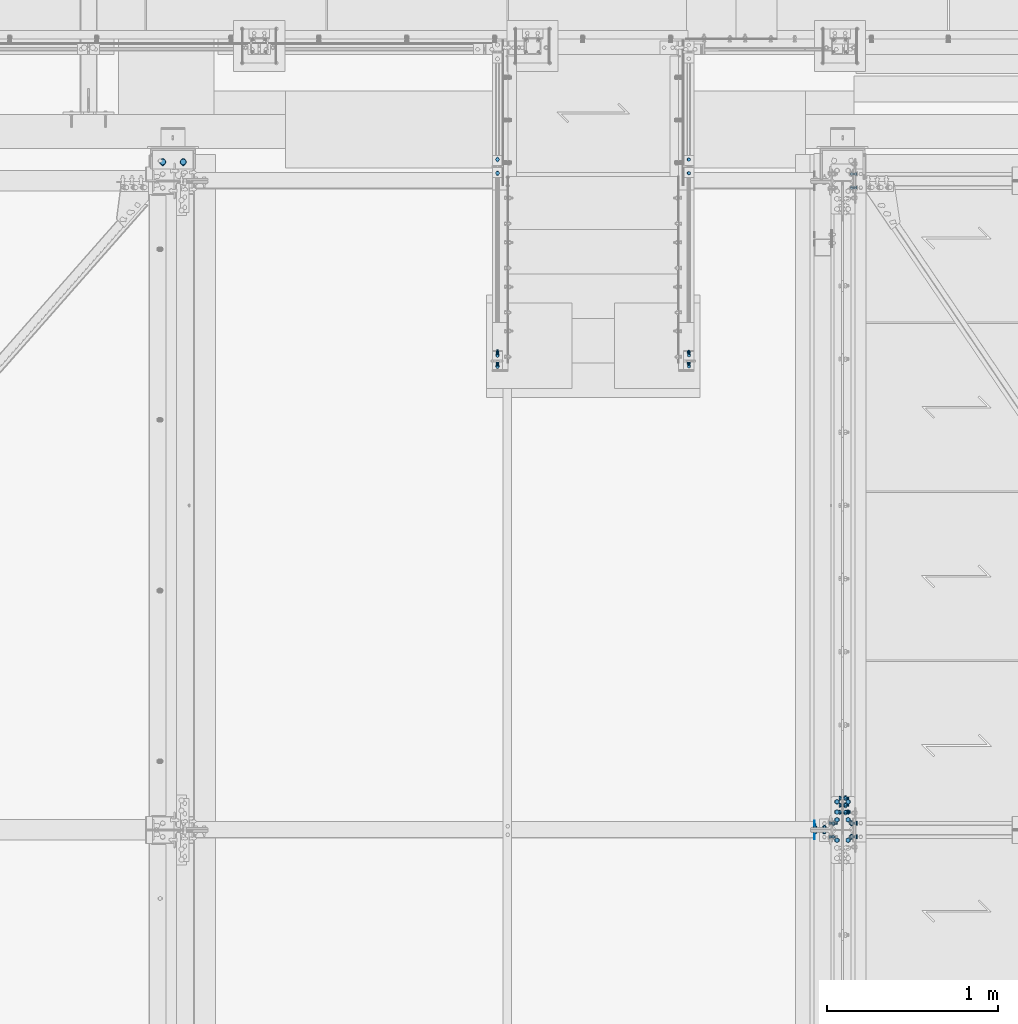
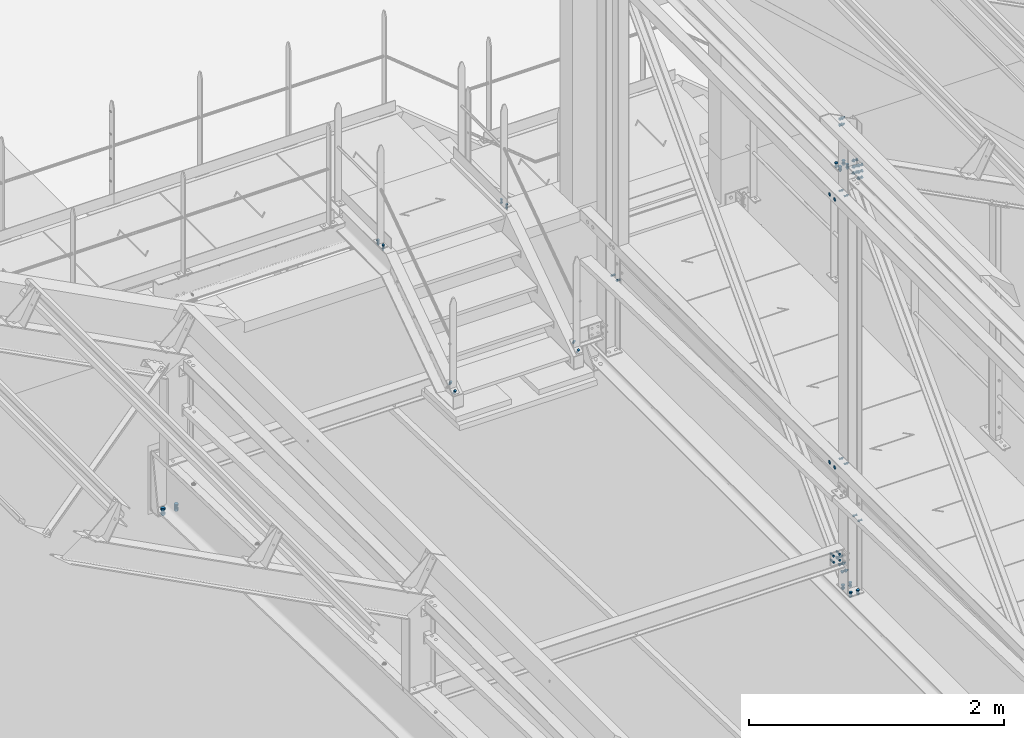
# One storey, part 173 of 362: 17 mechanical fasteners.
"""IFC2X3 building model written with IfcOpenShell, lengths in millimetres."""

from ifc_helpers import new_model, si_unit, frame, frame_2d, origin_with_axes, origin_2d_with_axis, place, context, subcontext, project, spatial, polyline, circle_curve, parameter, trimmed, segment, composite_curve, circle, outline, extrude, source, transform, mapped, material, type_object, element, save


model = new_model("IFC2X3")

# Units and contexts
model_context = context("Model", 3, precision=1e-05, world=origin_with_axes())
body_context = subcontext(model_context, "Body", "Model", "MODEL_VIEW")
ifc_project = project(units=[si_unit("LENGTHUNIT", "METRE", prefix="MILLI"), si_unit("AREAUNIT", "SQUARE_METRE"), si_unit("VOLUMEUNIT", "CUBIC_METRE"), si_unit("MASSUNIT", "GRAM", prefix="KILO"), si_unit("TIMEUNIT", "SECOND"), si_unit("PLANEANGLEUNIT", "RADIAN"), si_unit("SOLIDANGLEUNIT", "STERADIAN"), si_unit("THERMODYNAMICTEMPERATUREUNIT", "DEGREE_CELSIUS"), si_unit("LUMINOUSINTENSITYUNIT", "LUMEN")], contexts=[model_context])

# Site, building, storey
site_placement = place(None, origin_with_axes())
site = spatial("IfcSite", under=ifc_project, at=site_placement, Name="Undefined", CompositionType="ELEMENT")
building_placement = place(site_placement, origin_with_axes())
building = spatial("IfcBuilding", under=site, at=building_placement, Name="Undefined", CompositionType="ELEMENT")
storey_placement = place(building_placement, origin_with_axes())
storey = spatial("IfcBuildingStorey", under=building, at=storey_placement, Name="Undefined", CompositionType="ELEMENT", Elevation=0.0)

# Mechanical fasteners
ifc_material_1 = material(Name="8.8-SB-GALVA")
mechanical_fastener_type = type_object("IfcMechanicalFastenerType", Name="Bolt assembly")
shared_shape_1 = source(origin_with_axes(), body_context, "Body", "SweptSolid", [
    extrude(circle(Radius=7.0, at=origin_2d_with_axis()), frame((0.0, -0.100011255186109, 0.0), z_axis=(0.0, 1.0, 0.0), x_axis=(1.0, 0.0, 0.0)), (0.0, 0.0, 1.0), 12.9),
    extrude(circle(Radius=7.0, at=origin_2d_with_axis()), frame((0.0, -9.9, 0.0), z_axis=(0.0, 1.0, 0.0), x_axis=(1.0, 0.0, 0.0)), (0.0, 0.0, 1.0), 10.0),
    extrude(outline(polyline([(10.39230484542, 0.0), (5.19615242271, 9.00000000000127), (-5.19615242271, 9.00000000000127), (-10.39230484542, 0.0), (-5.19615242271, -9.00000000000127), (5.19615242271, -9.00000000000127), (10.39230484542, 0.0)])), frame((0.0, -17.92, 0.0), z_axis=(0.0, 1.0, 0.0), x_axis=(1.0, 0.0, 0.0)), (0.0, 0.0, 1.0), 7.92),
    extrude(circle(Radius=6.0, at=origin_2d_with_axis()), frame((0.0, -10.0000010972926, 0.0), z_axis=(0.0, 1.0, 0.0), x_axis=(1.0, 0.0, 0.0)), (0.0, 0.0, 1.0), 40.0),
    extrude(outline(polyline([(11.5008173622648, 0.0), (5.7504086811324, 9.96000000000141), (-5.7504086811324, 9.96000000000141), (-11.5008173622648, 0.0), (-5.7504086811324, -9.96000000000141), (5.7504086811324, -9.96000000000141), (11.5008173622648, 0.0)])), frame((0.0, 12.8008451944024, 0.0), z_axis=(0.0, 1.0, 0.0), x_axis=(1.0, 0.0, 0.0)), (0.0, 0.0, 1.0), 7.92),
])
mechanical_fastener_1_placement = place(storey_placement, frame((22569.9936634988, 15245.0038033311, 8910.0), z_axis=(-1.0, 0.0, 0.0), x_axis=(0.0, 1.0, 0.0)))
element("IfcMechanicalFastener", 1, at=mechanical_fastener_1_placement, inside=storey, type_object=mechanical_fastener_type, material=ifc_material_1, Name="Bolt assembly", NominalDiameter=12.0, NominalLength=40.0, context=body_context, shape_type="MappedRepresentation", body=[
    mapped(shared_shape_1, transform((0.0, 0.0, 0.0))),
    mapped(shared_shape_1, transform((80.0, 0.0, 0.0))),
])
shared_shape_2 = source(origin_with_axes(), body_context, "Body", "SweptSolid", [
    extrude(circle(Radius=7.0, at=origin_2d_with_axis()), frame((0.0, -0.0998569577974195, 0.0), z_axis=(0.0, 1.0, 0.0), x_axis=(1.0, 0.0, 0.0)), (0.0, 0.0, 1.0), 12.9),
    extrude(outline(composite_curve([segment(polyline([(-7.0, 7.0), (7.0, 7.0)]), True, "CONTINUOUS"), segment(trimmed(circle_curve(frame_2d((7.0, 0.0), x_axis=(0.0, 1.0)), 7.0), [parameter(0.0)], [parameter(3.14159265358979)], False, "PARAMETER"), True, "CONTINUOUS"), segment(polyline([(7.0, -7.0), (-7.0, -7.0)]), True, "CONTINUOUS"), segment(trimmed(circle_curve(frame_2d((-7.0, 0.0), x_axis=(0.0, -1.0)), 7.0), [parameter(0.0)], [parameter(3.14159265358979)], False, "PARAMETER"), True, "DISCONTINUOUS")], self_intersect=False)), frame((0.0, -9.9, 0.0), z_axis=(0.0, 1.0, 0.0), x_axis=(1.0, 0.0, 0.0)), (0.0, 0.0, 1.0), 10.0),
    extrude(outline(polyline([(10.39230484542, 0.0), (5.19615242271, 9.00000000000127), (-5.19615242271, 9.00000000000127), (-10.39230484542, 0.0), (-5.19615242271, -9.00000000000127), (5.19615242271, -9.00000000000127), (10.39230484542, 0.0)])), frame((0.0, -21.88, 0.0), z_axis=(0.0, 1.0, 0.0), x_axis=(1.0, 0.0, 0.0)), (0.0, 0.0, 1.0), 7.92),
    extrude(circle(Radius=6.0, at=origin_2d_with_axis()), frame((0.0, -13.96, 0.0), z_axis=(0.0, 1.0, 0.0), x_axis=(1.0, 0.0, 0.0)), (0.0, 0.0, 1.0), 50.0),
    extrude(circle(Radius=10.8, at=origin_2d_with_axis()), frame((0.0, -13.96, 0.0), z_axis=(0.0, 1.0, 0.0), x_axis=(1.0, 0.0, 0.0)), (0.0, 0.0, 1.0), 3.96),
    extrude(outline(polyline([(11.5008173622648, 0.0), (5.7504086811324, 9.96000000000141), (-5.7504086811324, 9.96000000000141), (-11.5008173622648, 0.0), (-5.7504086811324, -9.96000000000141), (5.7504086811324, -9.96000000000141), (11.5008173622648, 0.0)])), frame((0.0, 12.7985575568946, 0.0), z_axis=(0.0, 1.0, 0.0), x_axis=(1.0, 0.0, 0.0)), (0.0, 0.0, 1.0), 7.92),
])
mechanical_fastener_2_placement = place(storey_placement, frame((21449.9863365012, 14121.9152267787, 8200.94145566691), z_axis=(-1.0, 0.0, 0.0), x_axis=(0.0, 0.822192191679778, 0.56920997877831)))
element("IfcMechanicalFastener", 2, at=mechanical_fastener_2_placement, inside=storey, type_object=mechanical_fastener_type, material=ifc_material_1, Name="Bolt assembly", NominalDiameter=12.0, NominalLength=50.0, context=body_context, shape_type="MappedRepresentation", body=[
    mapped(shared_shape_2, transform((0.0, 0.0, 0.0))),
    mapped(shared_shape_2, transform((80.0, 0.0, 0.0))),
])
shared_shape_3 = source(origin_with_axes(), body_context, "Body", "SweptSolid", [
    extrude(circle(Radius=7.0, at=origin_2d_with_axis()), frame((0.0, -0.100011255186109, 0.0), z_axis=(0.0, 1.0, 0.0), x_axis=(1.0, 0.0, 0.0)), (0.0, 0.0, 1.0), 12.9),
    extrude(outline(composite_curve([segment(polyline([(-7.0, 7.0), (7.0, 7.0)]), True, "CONTINUOUS"), segment(trimmed(circle_curve(frame_2d((7.0, 0.0), x_axis=(0.0, 1.0)), 7.0), [parameter(0.0)], [parameter(3.14159265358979)], False, "PARAMETER"), True, "CONTINUOUS"), segment(polyline([(7.0, -7.0), (-7.0, -7.0)]), True, "CONTINUOUS"), segment(trimmed(circle_curve(frame_2d((-7.0, 0.0), x_axis=(0.0, -1.0)), 7.0), [parameter(0.0)], [parameter(3.14159265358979)], False, "PARAMETER"), True, "DISCONTINUOUS")], self_intersect=False)), frame((0.0, -9.9, 0.0), z_axis=(0.0, 1.0, 0.0), x_axis=(1.0, 0.0, 0.0)), (0.0, 0.0, 1.0), 10.0),
    extrude(outline(polyline([(10.39230484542, 0.0), (5.19615242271, 9.00000000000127), (-5.19615242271, 9.00000000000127), (-10.39230484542, 0.0), (-5.19615242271, -9.00000000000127), (5.19615242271, -9.00000000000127), (10.39230484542, 0.0)])), frame((0.0, -21.88, 0.0), z_axis=(0.0, 1.0, 0.0), x_axis=(1.0, 0.0, 0.0)), (0.0, 0.0, 1.0), 7.92),
    extrude(circle(Radius=6.0, at=origin_2d_with_axis()), frame((0.0, -13.96, 0.0), z_axis=(0.0, 1.0, 0.0), x_axis=(1.0, 0.0, 0.0)), (0.0, 0.0, 1.0), 50.0),
    extrude(circle(Radius=10.8, at=origin_2d_with_axis()), frame((0.0, -13.96, 0.0), z_axis=(0.0, 1.0, 0.0), x_axis=(1.0, 0.0, 0.0)), (0.0, 0.0, 1.0), 3.96),
    extrude(outline(polyline([(11.5008173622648, 0.0), (5.7504086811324, 9.96000000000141), (-5.7504086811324, 9.96000000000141), (-11.5008173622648, 0.0), (-5.7504086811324, -9.96000000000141), (5.7504086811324, -9.96000000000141), (11.5008173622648, 0.0)])), frame((0.0, 12.7985575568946, 0.0), z_axis=(0.0, 1.0, 0.0), x_axis=(1.0, 0.0, 0.0)), (0.0, 0.0, 1.0), 7.92),
])
mechanical_fastener_3_placement = place(storey_placement, frame((21449.9863365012, 15245.0038033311, 8910.0), z_axis=(-1.0, 0.0, 0.0), x_axis=(0.0, 1.0, 0.0)))
element("IfcMechanicalFastener", 3, at=mechanical_fastener_3_placement, inside=storey, type_object=mechanical_fastener_type, material=ifc_material_1, Name="Bolt assembly", NominalDiameter=12.0, NominalLength=50.0, context=body_context, shape_type="MappedRepresentation", body=[
    mapped(shared_shape_3, transform((0.0, 0.0, 0.0))),
    mapped(shared_shape_3, transform((80.0, 0.0, 0.0))),
])
shared_shape_4 = source(origin_with_axes(), body_context, "Body", "SweptSolid", [
    extrude(circle(Radius=7.0, at=origin_2d_with_axis()), frame((0.0, -0.0998569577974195, 0.0), z_axis=(0.0, 1.0, 0.0), x_axis=(1.0, 0.0, 0.0)), (0.0, 0.0, 1.0), 12.9),
    extrude(circle(Radius=7.0, at=origin_2d_with_axis()), frame((0.0, -9.9, 0.0), z_axis=(0.0, 1.0, 0.0), x_axis=(1.0, 0.0, 0.0)), (0.0, 0.0, 1.0), 10.0),
    extrude(outline(polyline([(10.39230484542, 0.0), (5.19615242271, 9.00000000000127), (-5.19615242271, 9.00000000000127), (-10.39230484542, 0.0), (-5.19615242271, -9.00000000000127), (5.19615242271, -9.00000000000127), (10.39230484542, 0.0)])), frame((0.0, -17.92, 0.0), z_axis=(0.0, 1.0, 0.0), x_axis=(1.0, 0.0, 0.0)), (0.0, 0.0, 1.0), 7.92),
    extrude(circle(Radius=6.0, at=origin_2d_with_axis()), frame((0.0, -10.0000010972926, 0.0), z_axis=(0.0, 1.0, 0.0), x_axis=(1.0, 0.0, 0.0)), (0.0, 0.0, 1.0), 40.0),
    extrude(outline(polyline([(11.5008173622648, 0.0), (5.7504086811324, 9.96000000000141), (-5.7504086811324, 9.96000000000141), (-11.5008173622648, 0.0), (-5.7504086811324, -9.96000000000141), (5.7504086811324, -9.96000000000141), (11.5008173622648, 0.0)])), frame((0.0, 12.8001574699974, 0.0), z_axis=(0.0, 1.0, 0.0), x_axis=(1.0, 0.0, 0.0)), (0.0, 0.0, 1.0), 7.92),
])
mechanical_fastener_4_placement = place(storey_placement, frame((22569.9936634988, 14121.9152267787, 8200.94145566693), z_axis=(-1.0, 0.0, 0.0), x_axis=(0.0, 0.822192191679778, 0.56920997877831)))
element("IfcMechanicalFastener", 4, at=mechanical_fastener_4_placement, inside=storey, type_object=mechanical_fastener_type, material=ifc_material_1, Name="Bolt assembly", NominalDiameter=12.0, NominalLength=40.0, context=body_context, shape_type="MappedRepresentation", body=[
    mapped(shared_shape_4, transform((0.0, 0.0, 0.0))),
    mapped(shared_shape_4, transform((80.0, 0.0, 0.0))),
])
ifc_material_2 = material(Name="6.8")
shared_shape_5 = source(origin_with_axes(), body_context, "Body", "SweptSolid", [
    extrude(circle(Radius=15.0, at=origin_2d_with_axis()), frame((0.0, 0.0, 0.0), z_axis=(0.0, 1.0, 0.0), x_axis=(1.0, 0.0, 0.0)), (0.0, 0.0, 1.0), 4.1),
])
mechanical_fastener_5_placement = place(storey_placement, frame((23303.5000012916, 11400.0, 11070.0), z_axis=(0.0, 1.0, 0.0), x_axis=(0.0, 0.0, 1.0)))
element("IfcMechanicalFastener", 5, at=mechanical_fastener_5_placement, inside=storey, type_object=mechanical_fastener_type, material=ifc_material_2, Name="Bolt assembly", NominalDiameter=30.0, NominalLength=4.0, context=body_context, shape_type="MappedRepresentation", body=[
    mapped(shared_shape_5, transform((0.0, 0.0, 40.0))),
    mapped(shared_shape_5, transform((0.0, 0.0, -40.0))),
])
ifc_material_3 = material(Name="8.8-SB-ZINGUE")
shared_shape_6 = source(origin_with_axes(), body_context, "Body", "SweptSolid", [
    extrude(circle(Radius=9.0, at=origin_2d_with_axis()), frame((0.0, -10.9000000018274, 0.0), z_axis=(0.0, 1.0, 0.0), x_axis=(1.0, 0.0, 0.0)), (0.0, 0.0, 1.0), 6.0),
    extrude(circle(Radius=9.0, at=origin_2d_with_axis()), frame((0.0, 4.9000000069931, 0.0), z_axis=(0.0, 1.0, 0.0), x_axis=(1.0, 0.0, 0.0)), (0.0, 0.0, 1.0), 6.1),
    extrude(circle(Radius=9.0, at=origin_2d_with_axis()), frame((0.0, -3.99999923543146, 0.0), z_axis=(0.0, 1.0, 0.0), x_axis=(1.0, 0.0, 0.0)), (0.0, 0.0, 1.0), 8.0),
    extrude(outline(polyline([(13.85640646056, 0.0), (6.92820323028, 12.0000000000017), (-6.92820323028, 12.0000000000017), (-13.85640646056, 0.0), (-6.92820323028, -12.0000000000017), (6.92820323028, -12.0000000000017), (13.85640646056, 0.0)])), frame((0.0, -21.5600000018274, 0.0), z_axis=(0.0, 1.0, 0.0), x_axis=(1.0, 0.0, 0.0)), (0.0, 0.0, 1.0), 10.56),
    extrude(circle(Radius=8.0, at=origin_2d_with_axis()), frame((0.0, -11.0000000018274, 0.0), z_axis=(0.0, 1.0, 0.0), x_axis=(1.0, 0.0, 0.0)), (0.0, 0.0, 1.0), 50.0),
    extrude(outline(polyline([(15.3344231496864, 0.0), (7.6672115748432, 13.2800000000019), (-7.6672115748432, 13.2800000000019), (-15.3344231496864, 0.0), (-7.6672115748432, -13.2800000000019), (7.6672115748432, -13.2800000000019), (15.3344231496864, 0.0)])), frame((0.0, 11.0000000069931, 0.0), z_axis=(0.0, 1.0, 0.0), x_axis=(1.0, 0.0, 0.0)), (0.0, 0.0, 1.0), 10.56),
])
mechanical_fastener_6_placement = place(storey_placement, frame((23470.0, 11503.5026753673, 7358.56885461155), z_axis=(0.0, 0.723792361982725, -0.690017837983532), x_axis=(0.0, 0.690017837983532, 0.723792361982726)))
element("IfcMechanicalFastener", 6, at=mechanical_fastener_6_placement, inside=storey, type_object=mechanical_fastener_type, material=ifc_material_3, Name="Bolt assembly", NominalDiameter=16.0, NominalLength=50.0, context=body_context, shape_type="MappedRepresentation", body=[
    mapped(shared_shape_6, transform((0.0, 0.0, 0.0))),
    mapped(shared_shape_6, transform((60.0, 0.0, 0.0))),
    mapped(shared_shape_6, transform((120.0, 0.0, 0.0))),
])
shared_shape_7 = source(origin_with_axes(), body_context, "Body", "SweptSolid", [
    extrude(circle(Radius=7.0, at=origin_2d_with_axis()), frame((0.0, -0.10007666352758, 0.0), z_axis=(0.0, 1.0, 0.0), x_axis=(1.0, 0.0, 0.0)), (0.0, 0.0, 1.0), 8.6),
    extrude(circle(Radius=7.0, at=origin_2d_with_axis()), frame((0.0, -6.9, 0.0), z_axis=(0.0, 1.0, 0.0), x_axis=(1.0, 0.0, 0.0)), (0.0, 0.0, 1.0), 7.0),
    extrude(outline(polyline([(10.39230484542, 0.0), (5.19615242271, 9.00000000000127), (-5.19615242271, 9.00000000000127), (-10.39230484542, 0.0), (-5.19615242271, -9.00000000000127), (5.19615242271, -9.00000000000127), (10.39230484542, 0.0)])), frame((0.0, -14.92, 0.0), z_axis=(0.0, 1.0, 0.0), x_axis=(1.0, 0.0, 0.0)), (0.0, 0.0, 1.0), 7.92),
    extrude(circle(Radius=6.0, at=origin_2d_with_axis()), frame((0.0, -7.0, 0.0), z_axis=(0.0, 1.0, 0.0), x_axis=(1.0, 0.0, 0.0)), (0.0, 0.0, 1.0), 30.0),
    extrude(outline(polyline([(11.5008173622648, 0.0), (5.7504086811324, 9.96000000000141), (-5.7504086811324, 9.96000000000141), (-11.5008173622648, 0.0), (-5.7504086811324, -9.96000000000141), (5.7504086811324, -9.96000000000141), (11.5008173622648, 0.0)])), frame((0.0, 8.49994421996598, 0.0), z_axis=(0.0, 1.0, 0.0), x_axis=(1.0, 0.0, 0.0)), (0.0, 0.0, 1.0), 7.92),
])
for number, where, z_axis, x_axis, name in (
    (7, (23536.49994422, 15200.0, 7909.99999999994), (0.0, -1.0, 0.0), (0.0, 0.0, 1.0), "Bolt assembly"),
    (8, (23536.49994422, 11399.9999999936, 7910.00000000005), (0.0, -1.0, 0.0), (0.0, 0.0, 1.0), "Bolt assembly"),
):
    element("IfcMechanicalFastener", number, at=place(storey_placement, frame(where, z_axis=z_axis, x_axis=x_axis)), inside=storey, type_object=mechanical_fastener_type, material=ifc_material_3, Name=name, NominalDiameter=12.0, NominalLength=30.0, context=body_context, shape_type="MappedRepresentation", body=[
        mapped(shared_shape_7, transform((0.0, 0.0, -40.0))),
        mapped(shared_shape_7, transform((0.0, 0.0, 40.0))),
    ])
shared_shape_8 = source(origin_with_axes(), body_context, "Body", "SweptSolid", [
    extrude(circle(Radius=9.0, at=origin_2d_with_axis()), frame((0.0, -0.091713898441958, 0.0), z_axis=(0.0, 1.0, 0.0), x_axis=(1.0, 0.0, 0.0)), (0.0, 0.0, 1.0), 8.6),
    extrude(circle(Radius=9.0, at=origin_2d_with_axis()), frame((0.0, -9.89171439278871, 0.0), z_axis=(0.0, 1.0, 0.0), x_axis=(1.0, 0.0, 0.0)), (0.0, 0.0, 1.0), 10.0),
    extrude(outline(polyline([(13.85640646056, 0.0), (6.92820323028, 12.0000000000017), (-6.92820323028, 12.0000000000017), (-13.85640646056, 0.0), (-6.92820323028, -12.0000000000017), (6.92820323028, -12.0000000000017), (13.85640646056, 0.0)])), frame((0.0, -20.5517143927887, 0.0), z_axis=(0.0, 1.0, 0.0), x_axis=(1.0, 0.0, 0.0)), (0.0, 0.0, 1.0), 10.56),
    extrude(circle(Radius=8.0, at=origin_2d_with_axis()), frame((0.0, -9.99171439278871, 0.0), z_axis=(0.0, 1.0, 0.0), x_axis=(1.0, 0.0, 0.0)), (0.0, 0.0, 1.0), 40.0),
    extrude(outline(polyline([(15.3344231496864, 0.0), (7.6672115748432, 13.2800000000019), (-7.6672115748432, 13.2800000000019), (-15.3344231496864, 0.0), (-7.6672115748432, -13.2800000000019), (7.6672115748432, -13.2800000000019), (15.3344231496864, 0.0)])), frame((0.0, 8.50828610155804, 0.0), z_axis=(0.0, 1.0, 0.0), x_axis=(1.0, 0.0, 0.0)), (0.0, 0.0, 1.0), 10.56),
])
mechanical_fastener_7_placement = place(storey_placement, frame((23536.5082856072, 11360.0, 11258.0026850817), z_axis=(0.0, 0.0, 1.0), x_axis=(0.0, 1.0, 0.0)))
element("IfcMechanicalFastener", 9, at=mechanical_fastener_7_placement, inside=storey, type_object=mechanical_fastener_type, material=ifc_material_3, Name="Bolt assembly", NominalDiameter=16.0, NominalLength=40.0, context=body_context, shape_type="MappedRepresentation", body=[
    mapped(shared_shape_8, transform((0.0, 0.0, -60.0))),
    mapped(shared_shape_8, transform((80.0, 0.0, -60.0))),
    mapped(shared_shape_8, transform((0.0, 0.0, 0.0))),
    mapped(shared_shape_8, transform((80.0, 0.0, 0.0))),
    mapped(shared_shape_8, transform((0.0, 0.0, 60.0))),
    mapped(shared_shape_8, transform((80.0, 0.0, 60.0))),
])
shared_shape_9 = source(origin_with_axes(), body_context, "Body", "SweptSolid", [
    extrude(circle(Radius=15.0, at=origin_2d_with_axis()), frame((0.0, -0.000130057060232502, 0.0), z_axis=(0.0, 1.0, 0.0), x_axis=(1.0, 0.0, 0.0)), (0.0, 0.0, 1.0), 4.1),
])
mechanical_fastener_8_placement = place(storey_placement, frame((23303.5001162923, 11400.0, 8500.0), z_axis=(0.0, -1.0, 0.0), x_axis=(0.0, 0.0, -1.0)))
element("IfcMechanicalFastener", 10, at=mechanical_fastener_8_placement, inside=storey, type_object=mechanical_fastener_type, material=ifc_material_2, Name="Bolt assembly", NominalDiameter=30.0, NominalLength=4.0, context=body_context, shape_type="MappedRepresentation", body=[
    mapped(shared_shape_9, transform((0.0, 0.0, -40.0))),
    mapped(shared_shape_9, transform((0.0, 0.0, 40.0))),
])
shared_shape_10 = source(origin_with_axes(), body_context, "Body", "SweptSolid", [
    extrude(circle(Radius=7.0, at=origin_2d_with_axis()), frame((0.0, -0.10007666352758, 0.0), z_axis=(0.0, 1.0, 0.0), x_axis=(1.0, 0.0, 0.0)), (0.0, 0.0, 1.0), 8.6),
    extrude(circle(Radius=7.0, at=origin_2d_with_axis()), frame((0.0, -3.90012822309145, 0.0), z_axis=(0.0, 1.0, 0.0), x_axis=(1.0, 0.0, 0.0)), (0.0, 0.0, 1.0), 4.0),
    extrude(outline(polyline([(10.39230484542, 0.0), (5.19615242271, 9.00000000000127), (-5.19615242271, 9.00000000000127), (-10.39230484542, 0.0), (-5.19615242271, -9.00000000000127), (5.19615242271, -9.00000000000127), (10.39230484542, 0.0)])), frame((0.0, -11.9201282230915, 0.0), z_axis=(0.0, 1.0, 0.0), x_axis=(1.0, 0.0, 0.0)), (0.0, 0.0, 1.0), 7.92),
    extrude(circle(Radius=6.0, at=origin_2d_with_axis()), frame((0.0, -4.00012822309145, 0.0), z_axis=(0.0, 1.0, 0.0), x_axis=(1.0, 0.0, 0.0)), (0.0, 0.0, 1.0), 30.0),
    extrude(outline(polyline([(11.5008173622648, 0.0), (5.7504086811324, 9.96000000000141), (-5.7504086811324, 9.96000000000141), (-11.5008173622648, 0.0), (-5.7504086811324, -9.96000000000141), (5.7504086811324, -9.96000000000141), (11.5008173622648, 0.0)])), frame((0.0, 8.49988372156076, 0.0), z_axis=(0.0, 1.0, 0.0), x_axis=(1.0, 0.0, 0.0)), (0.0, 0.0, 1.0), 7.92),
])
mechanical_fastener_9_placement = place(storey_placement, frame((23403.5001162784, 11400.0, 8500.00000188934), z_axis=(0.0, -1.0, 0.0), x_axis=(0.0, 0.0, -1.0)))
element("IfcMechanicalFastener", 11, at=mechanical_fastener_9_placement, inside=storey, type_object=mechanical_fastener_type, material=ifc_material_3, Name="Bolt assembly", NominalDiameter=12.0, NominalLength=30.0, context=body_context, shape_type="MappedRepresentation", body=[
    mapped(shared_shape_10, transform((0.0, 0.0, -40.0))),
    mapped(shared_shape_10, transform((0.0, 0.0, 40.0))),
])
shared_shape_11 = source(origin_with_axes(), body_context, "Body", "SweptSolid", [
    extrude(circle(Radius=7.0, at=origin_2d_with_axis()), frame((0.0, -0.100011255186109, 0.0), z_axis=(0.0, 1.0, 0.0), x_axis=(1.0, 0.0, 0.0)), (0.0, 0.0, 1.0), 8.6),
    extrude(circle(Radius=7.0, at=origin_2d_with_axis()), frame((0.0, -3.89999843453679, 0.0), z_axis=(0.0, 1.0, 0.0), x_axis=(1.0, 0.0, 0.0)), (0.0, 0.0, 1.0), 4.0),
    extrude(outline(polyline([(10.39230484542, 0.0), (5.19615242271, 9.00000000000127), (-5.19615242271, 9.00000000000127), (-10.39230484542, 0.0), (-5.19615242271, -9.00000000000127), (5.19615242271, -9.00000000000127), (10.39230484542, 0.0)])), frame((0.0, -11.9199984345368, 0.0), z_axis=(0.0, 1.0, 0.0), x_axis=(1.0, 0.0, 0.0)), (0.0, 0.0, 1.0), 7.92),
    extrude(circle(Radius=6.0, at=origin_2d_with_axis()), frame((0.0, -3.99999923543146, 0.0), z_axis=(0.0, 1.0, 0.0), x_axis=(1.0, 0.0, 0.0)), (0.0, 0.0, 1.0), 30.0),
    extrude(outline(polyline([(11.5008173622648, 0.0), (5.7504086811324, 9.96000000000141), (-5.7504086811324, 9.96000000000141), (-11.5008173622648, 0.0), (-5.7504086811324, -9.96000000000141), (5.7504086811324, -9.96000000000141), (11.5008173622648, 0.0)])), frame((0.0, 8.49999994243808, 0.0), z_axis=(0.0, 1.0, 0.0), x_axis=(1.0, 0.0, 0.0)), (0.0, 0.0, 1.0), 7.92),
])
mechanical_fastener_10_placement = place(storey_placement, frame((23403.5000012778, 11400.0, 11069.9999981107), z_axis=(0.0, 1.0, 0.0), x_axis=(0.0, 0.0, 1.0)))
element("IfcMechanicalFastener", 12, at=mechanical_fastener_10_placement, inside=storey, type_object=mechanical_fastener_type, material=ifc_material_3, Name="Bolt assembly", NominalDiameter=12.0, NominalLength=30.0, context=body_context, shape_type="MappedRepresentation", body=[
    mapped(shared_shape_11, transform((0.0, 0.0, -40.0))),
    mapped(shared_shape_11, transform((0.0, 0.0, 40.0))),
])
shared_shape_12 = source(origin_with_axes(), body_context, "Body", "SweptSolid", [
    extrude(circle(Radius=9.0, at=origin_2d_with_axis()), frame((0.0, -0.100011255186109, 0.0), z_axis=(0.0, 1.0, 0.0), x_axis=(1.0, 0.0, 0.0)), (0.0, 0.0, 1.0), 8.6),
    extrude(circle(Radius=9.0, at=origin_2d_with_axis()), frame((0.0, -2.9, 0.0), z_axis=(0.0, 1.0, 0.0), x_axis=(1.0, 0.0, 0.0)), (0.0, 0.0, 1.0), 3.0),
    extrude(outline(polyline([(13.85640646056, 0.0), (6.92820323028, 12.0000000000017), (-6.92820323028, 12.0000000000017), (-13.85640646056, 0.0), (-6.92820323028, -12.0000000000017), (6.92820323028, -12.0000000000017), (13.85640646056, 0.0)])), frame((0.0, -13.56, 0.0), z_axis=(0.0, 1.0, 0.0), x_axis=(1.0, 0.0, 0.0)), (0.0, 0.0, 1.0), 10.56),
    extrude(circle(Radius=8.0, at=origin_2d_with_axis()), frame((0.0, -2.99999932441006, 0.0), z_axis=(0.0, 1.0, 0.0), x_axis=(1.0, 0.0, 0.0)), (0.0, 0.0, 1.0), 40.0),
    extrude(outline(polyline([(15.3344231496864, 0.0), (7.6672115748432, 13.2800000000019), (-7.6672115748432, 13.2800000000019), (-15.3344231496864, 0.0), (-7.6672115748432, -13.2800000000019), (7.6672115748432, -13.2800000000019), (15.3344231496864, 0.0)])), frame((0.0, 8.49999994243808, 0.0), z_axis=(0.0, 1.0, 0.0), x_axis=(1.0, 0.0, 0.0)), (0.0, 0.0, 1.0), 10.56),
])
mechanical_fastener_11_placement = place(storey_placement, frame((23403.49999895, 11439.9969509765, 11701.409878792), z_axis=(0.0, 1.0, 0.0), x_axis=(0.0, 0.0, 1.0)))
element("IfcMechanicalFastener", 13, at=mechanical_fastener_11_placement, inside=storey, type_object=mechanical_fastener_type, material=ifc_material_3, Name="Bolt assembly", NominalDiameter=16.0, NominalLength=40.0, context=body_context, shape_type="MappedRepresentation", body=[
    mapped(shared_shape_12, transform((0.0, 0.0, 0.0))),
    mapped(shared_shape_12, transform((60.0, 0.0, 0.0))),
])
shared_shape_13 = source(origin_with_axes(), body_context, "Body", "SweptSolid", [
    extrude(circle(Radius=7.0, at=origin_2d_with_axis()), frame((0.0, -2.65018567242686, 0.0), z_axis=(0.0, 1.0, 0.0), x_axis=(1.0, 0.0, 0.0)), (0.0, 0.0, 1.0), 5.3),
    extrude(circle(Radius=7.0, at=origin_2d_with_axis()), frame((0.0, -12.9001594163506, 0.0), z_axis=(0.0, 1.0, 0.0), x_axis=(1.0, 0.0, 0.0)), (0.0, 0.0, 1.0), 10.0),
    extrude(circle(Radius=7.0, at=origin_2d_with_axis()), frame((0.0, 2.90070287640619, 0.0), z_axis=(0.0, 1.0, 0.0), x_axis=(1.0, 0.0, 0.0)), (0.0, 0.0, 1.0), 10.1),
    extrude(outline(polyline([(10.39230484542, 0.0), (5.19615242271, 9.00000000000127), (-5.19615242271, 9.00000000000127), (-10.39230484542, 0.0), (-5.19615242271, -9.00000000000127), (5.19615242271, -9.00000000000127), (10.39230484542, 0.0)])), frame((0.0, -20.9201594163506, 0.0), z_axis=(0.0, 1.0, 0.0), x_axis=(1.0, 0.0, 0.0)), (0.0, 0.0, 1.0), 7.92),
    extrude(circle(Radius=6.0, at=origin_2d_with_axis()), frame((0.0, -13.0001594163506, 0.0), z_axis=(0.0, 1.0, 0.0), x_axis=(1.0, 0.0, 0.0)), (0.0, 0.0, 1.0), 50.0),
    extrude(outline(polyline([(11.5008173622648, 0.0), (5.7504086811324, 9.96000000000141), (-5.7504086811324, 9.96000000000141), (-11.5008173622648, 0.0), (-5.7504086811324, -9.96000000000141), (5.7504086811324, -9.96000000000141), (11.5008173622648, 0.0)])), frame((0.0, 13.0007028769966, 0.0), z_axis=(0.0, 1.0, 0.0), x_axis=(1.0, 0.0, 0.0)), (0.0, 0.0, 1.0), 7.92),
])
mechanical_fastener_12_placement = place(storey_placement, frame((23308.4999999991, 11400.0001998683, 7601.6960863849), z_axis=(7.58071938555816e-11, 0.0314107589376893, 0.999506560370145), x_axis=(0.999999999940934, -1.08559999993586e-05, 5.27999997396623e-07)))
element("IfcMechanicalFastener", 14, at=mechanical_fastener_12_placement, inside=storey, type_object=mechanical_fastener_type, material=ifc_material_3, Name="Bolt assembly", NominalDiameter=12.0, NominalLength=50.0, context=body_context, shape_type="MappedRepresentation", body=[
    mapped(shared_shape_13, transform((0.0, 0.0, -30.0))),
    mapped(shared_shape_13, transform((55.0000000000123, 3.45607986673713e-11, -30.0000000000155))),
    mapped(shared_shape_13, transform((0.0, 0.0, 30.0))),
    mapped(shared_shape_13, transform((54.9999999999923, 3.45607986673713e-11, 29.9999999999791))),
])
shared_shape_14 = source(origin_with_axes(), body_context, "Body", "SweptSolid", [
    extrude(circle(Radius=9.0, at=origin_2d_with_axis()), frame((0.0, -8.40001950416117, 0.0), z_axis=(0.0, 1.0, 0.0), x_axis=(1.0, 0.0, 0.0)), (0.0, 0.0, 1.0), 8.5),
    extrude(circle(Radius=9.0, at=origin_2d_with_axis()), frame((0.0, -0.100011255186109, 0.0), z_axis=(0.0, 1.0, 0.0), x_axis=(1.0, 0.0, 0.0)), (0.0, 0.0, 1.0), 10.1),
    extrude(outline(polyline([(13.85640646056, 0.0), (6.92820323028, 12.0000000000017), (-6.92820323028, 12.0000000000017), (-13.85640646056, 0.0), (-6.92820323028, -12.0000000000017), (6.92820323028, -12.0000000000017), (13.85640646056, 0.0)])), frame((0.0, -19.0599999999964, 0.0), z_axis=(0.0, 1.0, 0.0), x_axis=(1.0, 0.0, 0.0)), (0.0, 0.0, 1.0), 10.56),
    extrude(circle(Radius=8.0, at=origin_2d_with_axis()), frame((0.0, -8.5, 0.0), z_axis=(0.0, 1.0, 0.0), x_axis=(1.0, 0.0, 0.0)), (0.0, 0.0, 1.0), 40.0),
    extrude(outline(polyline([(15.3344231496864, 0.0), (7.6672115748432, 13.2800000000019), (-7.6672115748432, 13.2800000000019), (-15.3344231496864, 0.0), (-7.6672115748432, -13.2800000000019), (7.6672115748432, -13.2800000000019), (15.3344231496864, 0.0)])), frame((0.0, 10.0000000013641, 0.0), z_axis=(0.0, 1.0, 0.0), x_axis=(1.0, 0.0, 0.0)), (0.0, 0.0, 1.0), 10.56),
])
mechanical_fastener_13_placement = place(storey_placement, frame((23470.0000000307, 11505.0, 11236.0), z_axis=(-1.0, 0.0, 0.0), x_axis=(0.0, 1.0, 0.0)))
element("IfcMechanicalFastener", 15, at=mechanical_fastener_13_placement, inside=storey, type_object=mechanical_fastener_type, material=ifc_material_3, Name="Bolt assembly", NominalDiameter=16.0, NominalLength=40.0, context=body_context, shape_type="MappedRepresentation", body=[
    mapped(shared_shape_14, transform((0.0, 0.0, -32.5))),
    mapped(shared_shape_14, transform((60.0, 0.0, -32.5))),
    mapped(shared_shape_14, transform((0.0, 0.0, 32.5))),
    mapped(shared_shape_14, transform((60.0, 0.0, 32.5))),
])
shared_shape_15 = source(origin_with_axes(), body_context, "Body", "SweptSolid", [
    extrude(circle(Radius=9.0, at=origin_2d_with_axis()), frame((0.0, -0.10007666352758, 0.0), z_axis=(0.0, 1.0, 0.0), x_axis=(1.0, 0.0, 0.0)), (0.0, 0.0, 1.0), 9.6),
    extrude(circle(Radius=9.0, at=origin_2d_with_axis()), frame((0.0, -9.9, 0.0), z_axis=(0.0, 1.0, 0.0), x_axis=(1.0, 0.0, 0.0)), (0.0, 0.0, 1.0), 10.0),
    extrude(outline(polyline([(13.85640646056, 0.0), (6.92820323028, 12.0000000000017), (-6.92820323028, 12.0000000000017), (-13.85640646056, 0.0), (-6.92820323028, -12.0000000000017), (6.92820323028, -12.0000000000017), (13.85640646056, 0.0)])), frame((0.0, -20.5600000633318, 0.0), z_axis=(0.0, 1.0, 0.0), x_axis=(1.0, 0.0, 0.0)), (0.0, 0.0, 1.0), 10.56),
    extrude(circle(Radius=8.0, at=origin_2d_with_axis()), frame((0.0, -10.0000010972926, 0.0), z_axis=(0.0, 1.0, 0.0), x_axis=(1.0, 0.0, 0.0)), (0.0, 0.0, 1.0), 40.0),
    extrude(outline(polyline([(15.3344231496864, 0.0), (7.6672115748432, 13.2800000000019), (-7.6672115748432, 13.2800000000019), (-15.3344231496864, 0.0), (-7.6672115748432, -13.2800000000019), (7.6672115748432, -13.2800000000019), (15.3344231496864, 0.0)])), frame((0.0, 9.50000815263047, 0.0), z_axis=(0.0, 1.0, 0.0), x_axis=(1.0, 0.0, 0.0)), (0.0, 0.0, 1.0), 10.56),
])
mechanical_fastener_14_placement = place(storey_placement, frame((23470.0, 11340.0, 7249.9999684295), z_axis=(-1.0, 0.0, 0.0), x_axis=(0.0, 1.0, 0.0)))
element("IfcMechanicalFastener", 16, at=mechanical_fastener_14_placement, inside=storey, type_object=mechanical_fastener_type, material=ifc_material_3, Name="Bolt assembly", NominalDiameter=16.0, NominalLength=40.0, context=body_context, shape_type="MappedRepresentation", body=[
    mapped(shared_shape_15, transform((0.0, 0.0, -32.5))),
    mapped(shared_shape_15, transform((120.0, 0.0, -32.5))),
    mapped(shared_shape_15, transform((0.0, 0.0, 32.5))),
    mapped(shared_shape_15, transform((120.0, 0.0, 32.5))),
])
ifc_material_4 = material(Name="HR10.9")
shared_shape_16 = source(origin_with_axes(), body_context, "Body", "SweptSolid", [
    extrude(circle(Radius=11.0, at=origin_2d_with_axis()), frame((0.0, -17.1000007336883, 0.0), z_axis=(0.0, 1.0, 0.0), x_axis=(1.0, 0.0, 0.0)), (0.0, 0.0, 1.0), 17.2),
    extrude(outline(composite_curve([segment(polyline([(-11.0, 11.0), (11.0, 11.0)]), True, "CONTINUOUS"), segment(trimmed(circle_curve(frame_2d((11.0, 0.0), x_axis=(0.0, 1.0)), 11.0), [parameter(0.0)], [parameter(3.14159265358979)], False, "PARAMETER"), True, "CONTINUOUS"), segment(polyline([(11.0, -11.0), (-11.0, -11.0)]), True, "CONTINUOUS"), segment(trimmed(circle_curve(frame_2d((-11.0, 0.0), x_axis=(0.0, -1.0)), 11.0), [parameter(0.0)], [parameter(3.14159265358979)], False, "PARAMETER"), True, "DISCONTINUOUS")], self_intersect=False)), frame((0.0, -0.100011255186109, 0.0), z_axis=(0.0, 1.0, 0.0), x_axis=(1.0, 0.0, 0.0)), (0.0, 0.0, 1.0), 10.1),
    extrude(outline(polyline([(18.47520861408, 0.0), (9.23760430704, 16.0000000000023), (-9.23760430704, 16.0000000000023), (-18.47520861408, 0.0), (-9.23760430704, -16.0000000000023), (9.23760430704, -16.0000000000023), (18.47520861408, 0.0)])), frame((0.0, -34.2000007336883, 0.0), z_axis=(0.0, 1.0, 0.0), x_axis=(1.0, 0.0, 0.0)), (0.0, 0.0, 1.0), 13.0),
    extrude(circle(Radius=10.0, at=origin_2d_with_axis()), frame((0.0, -21.2000007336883, 0.0), z_axis=(0.0, 1.0, 0.0), x_axis=(1.0, 0.0, 0.0)), (0.0, 0.0, 1.0), 60.0),
    extrude(circle(Radius=18.5, at=origin_2d_with_axis()), frame((0.0, -21.2000007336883, 0.0), z_axis=(0.0, 1.0, 0.0), x_axis=(1.0, 0.0, 0.0)), (0.0, 0.0, 1.0), 4.0),
    extrude(circle(Radius=18.5, at=origin_2d_with_axis()), frame((0.0, 10.0000000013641, 0.0), z_axis=(0.0, 1.0, 0.0), x_axis=(1.0, 0.0, 0.0)), (0.0, 0.0, 1.0), 4.0),
    extrude(outline(polyline([(18.47520861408, 0.0), (9.23760430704, 16.0000000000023), (-9.23760430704, 16.0000000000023), (-18.47520861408, 0.0), (-9.23760430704, -16.0000000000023), (9.23760430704, -16.0000000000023), (18.47520861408, 0.0)])), frame((0.0, 13.9999928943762, 0.0), z_axis=(0.0, 1.0, 0.0), x_axis=(1.0, 0.0, 0.0)), (0.0, 0.0, 1.0), 18.0),
])
mechanical_fastener_15_placement = place(storey_placement, frame((19549.9999999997, 15310.0223558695, 7018.59163958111), z_axis=(-1.0, 0.0, 0.0), x_axis=(3.14103090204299e-11, 0.999506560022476, -0.0314107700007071)))
element("IfcMechanicalFastener", 17, at=mechanical_fastener_15_placement, inside=storey, type_object=mechanical_fastener_type, material=ifc_material_4, Name="Bolt assembly", NominalDiameter=20.0, NominalLength=60.0, context=body_context, shape_type="MappedRepresentation", body=[
    mapped(shared_shape_16, transform((0.0, 0.0, -60.0))),
    mapped(shared_shape_16, transform((0.0, 0.0, 60.0))),
])

save(model, "model.ifc")
